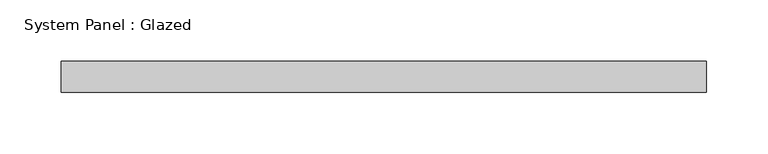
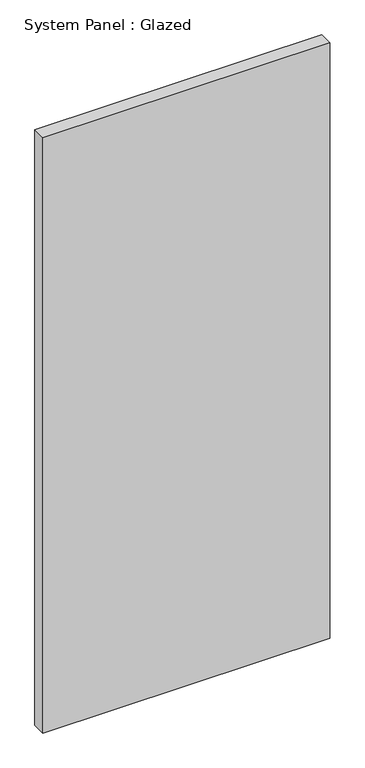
"""IFC4 building model written with IfcOpenShell, lengths in millimetres: plate geometry, System Panel : Glazed."""

from ifc_helpers import new_model, si_unit, origin, origin_with_axes, place, context, project, spatial, polyline, outline, extrude, source, transform, mapped, element, save


def system_panel_glazed_9dcaf0c5(model_context):
    return source(origin(), model_context, "Body", "SweptSolid", [
        extrude(outline(polyline([(263.525, -44.45), (-263.525, -44.45), (-263.525, -19.05), (263.525, -19.05), (263.525, -44.45)])), origin_with_axes(), (0.0, 0.0, 1.0), 1155.7),
    ])


if __name__ == "__main__":
    model = new_model("IFC4")
    model_context = context("Model", 3, world=origin())
    ifc_project = project(units=[si_unit("LENGTHUNIT", "METRE", prefix="MILLI")], contexts=[model_context])
    site = spatial("IfcSite", under=ifc_project)
    building = spatial("IfcBuilding", under=site)
    placement = place(None, origin())
    system_panel_glazed_shape = system_panel_glazed_9dcaf0c5(model_context)
    element("IfcPlate", 1, ObjectType="System Panel : Glazed", at=placement, inside=building, context=model_context, shape_type="MappedRepresentation", body=[
        mapped(system_panel_glazed_shape, transform((0.0, 0.0, 0.0), x_axis=(1.0, 0.0, 0.0), y_axis=(0.0, 1.0, 0.0), z_axis=(0.0, 0.0, 1.0))),
    ])
    save(model, "model.ifc")
